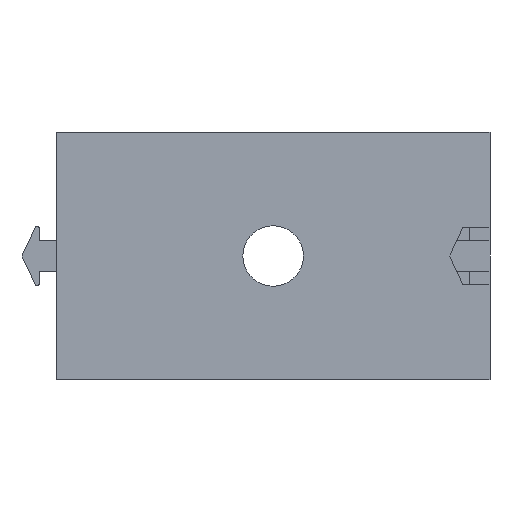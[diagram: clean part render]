
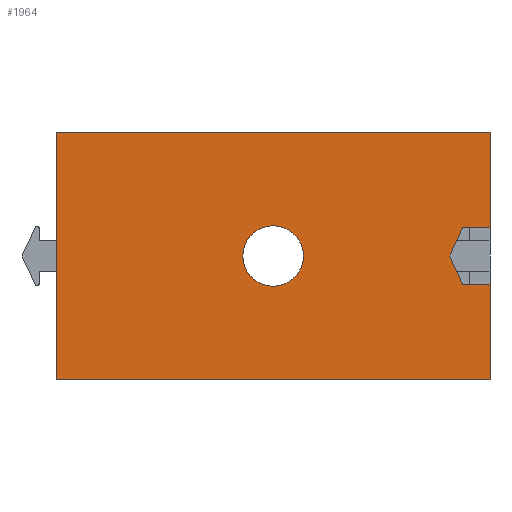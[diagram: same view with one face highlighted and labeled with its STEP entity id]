
A CAD part, front view. The second image highlights one B-rep face of the part: STEP entity #1964.
In plain terms, the highlighted planar face has unit normal (0, -1, 0).
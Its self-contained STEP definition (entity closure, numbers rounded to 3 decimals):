
#167 = ORIENTED_EDGE ( 'NONE', *, *, #3539, .T. ) ;
#168 = ORIENTED_EDGE ( 'NONE', *, *, #3355, .T. ) ;
#174 = ORIENTED_EDGE ( 'NONE', *, *, #3698, .F. ) ;
#175 = ORIENTED_EDGE ( 'NONE', *, *, #3358, .T. ) ;
#176 = ORIENTED_EDGE ( 'NONE', *, *, #3336, .T. ) ;
#177 = ORIENTED_EDGE ( 'NONE', *, *, #3524, .T. ) ;
#180 = ORIENTED_EDGE ( 'NONE', *, *, #3692, .F. ) ;
#181 = ORIENTED_EDGE ( 'NONE', *, *, #3537, .F. ) ;
#182 = ORIENTED_EDGE ( 'NONE', *, *, #3452, .T. ) ;
#183 = ORIENTED_EDGE ( 'NONE', *, *, #3538, .T. ) ;
#184 = ORIENTED_EDGE ( 'NONE', *, *, #3535, .T. ) ;
#257 = EDGE_LOOP ( 'NONE', ( #177, #176 ) ) ;
#263 = EDGE_LOOP ( 'NONE', ( #184, #175, #174, #183, #182, #181, #180, #168, #167 ) ) ;
#709 = CARTESIAN_POINT ( 'NONE',  ( 21.5, -41.5, 10. ) ) ;
#710 = PLANE ( 'NONE',  #3810 ) ;
#712 = DIRECTION ( 'NONE',  ( 0., 1., 0. ) ) ;
#713 = DIRECTION ( 'NONE',  ( 0., 0., 1. ) ) ;
#763 = CARTESIAN_POINT ( 'NONE',  ( 21.5, -41.5, -12.25 ) ) ;
#779 = CARTESIAN_POINT ( 'NONE',  ( -21.5, -41.5, 12.25 ) ) ;
#794 = CARTESIAN_POINT ( 'NONE',  ( 21.5, -41.5, 12.25 ) ) ;
#805 = CARTESIAN_POINT ( 'NONE',  ( 21.5, -41.5, -2.8 ) ) ;
#819 = CARTESIAN_POINT ( 'NONE',  ( -21.5, -41.5, -12.25 ) ) ;
#856 = CARTESIAN_POINT ( 'NONE',  ( 18.806, -41.5, 2.8 ) ) ;
#880 = CARTESIAN_POINT ( 'NONE',  ( 0., -41.5, -3. ) ) ;
#889 = CARTESIAN_POINT ( 'NONE',  ( 0., -41.5, 3. ) ) ;
#900 = CARTESIAN_POINT ( 'NONE',  ( 18.806, -41.5, -2.8 ) ) ;
#917 = CARTESIAN_POINT ( 'NONE',  ( 21.5, -41.5, 2.8 ) ) ;
#1173 = CARTESIAN_POINT ( 'NONE',  ( 0., -41.5, 0. ) ) ;
#1174 = DIRECTION ( 'NONE',  ( 0., 1., 0. ) ) ;
#1175 = DIRECTION ( 'NONE',  ( 0., 0., 1. ) ) ;
#1267 = CARTESIAN_POINT ( 'NONE',  ( 21.5, -41.5, -2.8 ) ) ;
#1268 = DIRECTION ( 'NONE',  ( -1., 0., 0. ) ) ;
#1274 = CARTESIAN_POINT ( 'NONE',  ( 21.5, -41.5, 2.8 ) ) ;
#1275 = DIRECTION ( 'NONE',  ( 1., 0., 0. ) ) ;
#1355 = CARTESIAN_POINT ( 'NONE',  ( -21.5, -41.5, 10. ) ) ;
#1361 = DIRECTION ( 'NONE',  ( 0., 0., -1. ) ) ;
#1490 = CARTESIAN_POINT ( 'NONE',  ( 0., -41.5, 0. ) ) ;
#1522 = DIRECTION ( 'NONE',  ( 0., 1., 0. ) ) ;
#1523 = DIRECTION ( 'NONE',  ( 0., 0., 1. ) ) ;
#1548 = CARTESIAN_POINT ( 'NONE',  ( 21.5, -41.5, -12.25 ) ) ;
#1550 = CARTESIAN_POINT ( 'NONE',  ( 22.045, -41.5, 9.746 ) ) ;
#1551 = DIRECTION ( 'NONE',  ( 0.423, 0., 0.906 ) ) ;
#1554 = CARTESIAN_POINT ( 'NONE',  ( 21.5, -41.5, 12.25 ) ) ;
#1555 = DIRECTION ( 'NONE',  ( -1., 0., 0. ) ) ;
#1557 = DIRECTION ( 'NONE',  ( -1., 0., 0. ) ) ;
#1558 = CARTESIAN_POINT ( 'NONE',  ( 14.384, -41.5, 6.682 ) ) ;
#1559 = DIRECTION ( 'NONE',  ( -0.423, 0., 0.906 ) ) ;
#1964 = ADVANCED_FACE ( 'NONE', ( #2281, #2283 ), #710, .F. ) ;
#2281 = FACE_BOUND ( 'NONE', #257, .T. ) ;
#2283 = FACE_OUTER_BOUND ( 'NONE', #263, .T. ) ;
#2391 = CARTESIAN_POINT ( 'NONE',  ( 21.5, -41.5, 10. ) ) ;
#2392 = DIRECTION ( 'NONE',  ( 0., 0., -1. ) ) ;
#2403 = CARTESIAN_POINT ( 'NONE',  ( 21.5, -41.5, 10. ) ) ;
#2404 = DIRECTION ( 'NONE',  ( 0., 0., -1. ) ) ;
#2456 = CARTESIAN_POINT ( 'NONE',  ( 17.5, -41.5, 0. ) ) ;
#2729 = VERTEX_POINT ( 'NONE', #763 ) ;
#2759 = VERTEX_POINT ( 'NONE', #779 ) ;
#2860 = VERTEX_POINT ( 'NONE', #794 ) ;
#2893 = VERTEX_POINT ( 'NONE', #805 ) ;
#2917 = VERTEX_POINT ( 'NONE', #819 ) ;
#2984 = VERTEX_POINT ( 'NONE', #856 ) ;
#3013 = VERTEX_POINT ( 'NONE', #880 ) ;
#3023 = VERTEX_POINT ( 'NONE', #889 ) ;
#3037 = VERTEX_POINT ( 'NONE', #900 ) ;
#3056 = VERTEX_POINT ( 'NONE', #917 ) ;
#3336 = EDGE_CURVE ( 'NONE', #3013, #3023, #4254, .T. ) ;
#3355 = EDGE_CURVE ( 'NONE', #2893, #3037, #4279, .T. ) ;
#3358 = EDGE_CURVE ( 'NONE', #2984, #3056, #4282, .T. ) ;
#3452 = EDGE_CURVE ( 'NONE', #2759, #2917, #4357, .T. ) ;
#3524 = EDGE_CURVE ( 'NONE', #3023, #3013, #4492, .T. ) ;
#3535 = EDGE_CURVE ( 'NONE', #4031, #2984, #4509, .T. ) ;
#3537 = EDGE_CURVE ( 'NONE', #2729, #2917, #4502, .T. ) ;
#3538 = EDGE_CURVE ( 'NONE', #2860, #2759, #4504, .T. ) ;
#3539 = EDGE_CURVE ( 'NONE', #3037, #4031, #4517, .T. ) ;
#3692 = EDGE_CURVE ( 'NONE', #2893, #2729, #4727, .T. ) ;
#3698 = EDGE_CURVE ( 'NONE', #2860, #3056, #4735, .T. ) ;
#3810 = AXIS2_PLACEMENT_3D ( 'NONE', #709, #712, #713 ) ;
#3840 = AXIS2_PLACEMENT_3D ( 'NONE', #1173, #1174, #1175 ) ;
#3866 = AXIS2_PLACEMENT_3D ( 'NONE', #1490, #1522, #1523 ) ;
#4031 = VERTEX_POINT ( 'NONE', #2456 ) ;
#4254 = CIRCLE ( 'NONE', #3840, 3. ) ;
#4276 = VECTOR ( 'NONE', #1275, 1000. ) ;
#4279 = LINE ( 'NONE', #1267, #4280 ) ;
#4280 = VECTOR ( 'NONE', #1268, 1000. ) ;
#4282 = LINE ( 'NONE', #1274, #4276 ) ;
#4354 = VECTOR ( 'NONE', #1361, 1000. ) ;
#4357 = LINE ( 'NONE', #1355, #4354 ) ;
#4492 = CIRCLE ( 'NONE', #3866, 3. ) ;
#4502 = LINE ( 'NONE', #1548, #4513 ) ;
#4504 = LINE ( 'NONE', #1554, #4515 ) ;
#4509 = LINE ( 'NONE', #1550, #4510 ) ;
#4510 = VECTOR ( 'NONE', #1551, 1000. ) ;
#4513 = VECTOR ( 'NONE', #1555, 1000. ) ;
#4515 = VECTOR ( 'NONE', #1557, 1000. ) ;
#4517 = LINE ( 'NONE', #1558, #4518 ) ;
#4518 = VECTOR ( 'NONE', #1559, 1000. ) ;
#4713 = VECTOR ( 'NONE', #2392, 1000. ) ;
#4727 = LINE ( 'NONE', #2391, #4713 ) ;
#4735 = LINE ( 'NONE', #2403, #4783 ) ;
#4783 = VECTOR ( 'NONE', #2404, 1000. ) ;
